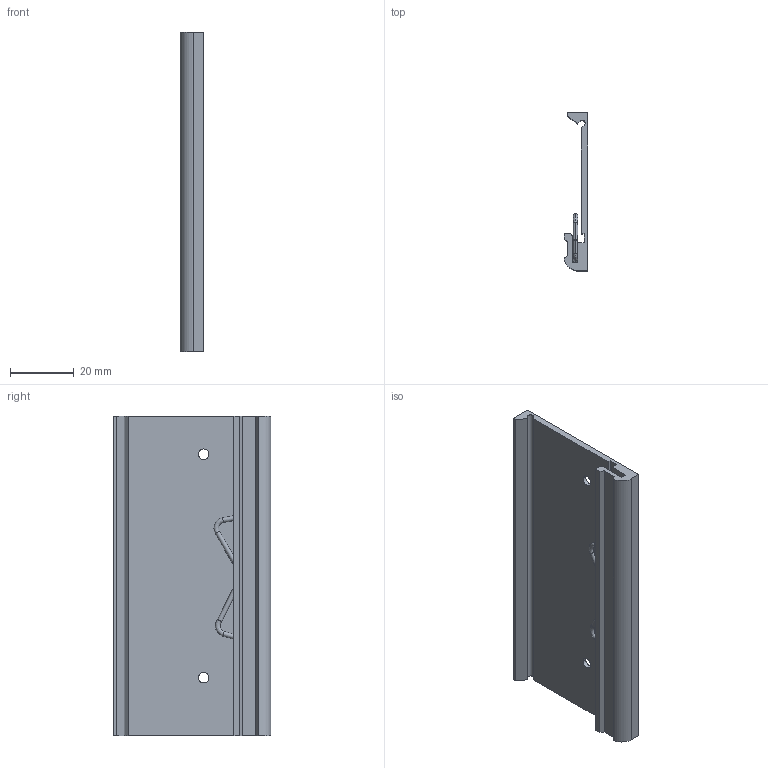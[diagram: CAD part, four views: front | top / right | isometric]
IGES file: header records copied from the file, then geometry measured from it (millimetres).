
Start section:  PTC IGES file: din-rail-4slot.igs
Global section: file name: din-rail-4slot.igs; native system: Pro/ENGINEER by Parametric Technology Corporation; preprocessor: 2006080; author: chrisj; organization: Unknown; date: 070126.142250; units: inch
Bounding box: 7.49 x 49.33 x 100 mm (x, y, z)
Surface area: 14861.6 mm2 (no closed solid volume)
Topology: 0 solids, 0 shells, 64 faces, 304 edges, 304 vertices
Faces by surface type: revolution 37, bspline 27
